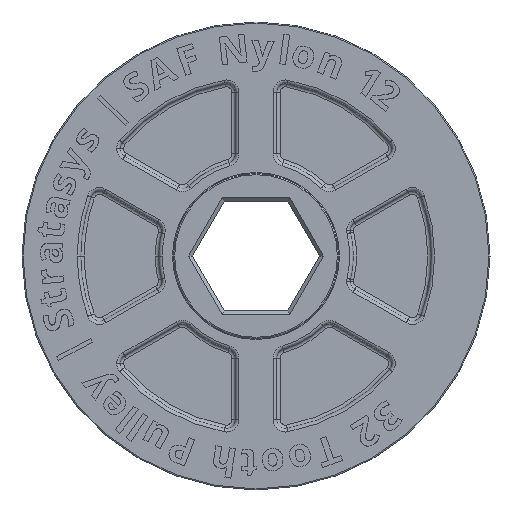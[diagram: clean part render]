
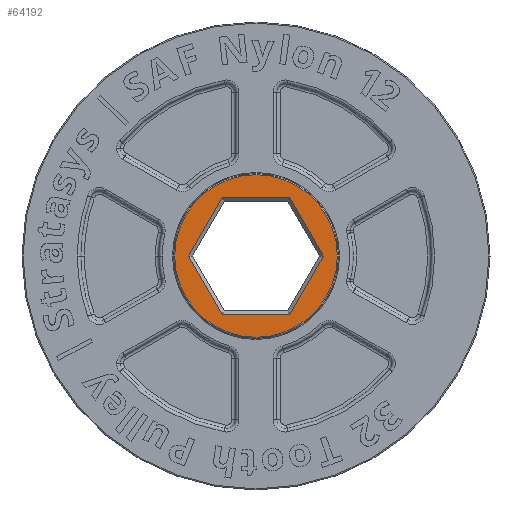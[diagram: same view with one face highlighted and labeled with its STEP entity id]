
A CAD part, left-side view. The second image highlights one B-rep face of the part: STEP entity #64192.
In plain terms, the highlighted planar face has unit normal (-1, 0, 0).
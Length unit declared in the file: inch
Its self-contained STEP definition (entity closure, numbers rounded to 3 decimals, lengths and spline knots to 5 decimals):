
#1128 = LINE ( 'NONE', #31278, #35189 ) ;
#2047 = DIRECTION ( 'NONE',  ( -1., 0., 0. ) ) ;
#2355 = CARTESIAN_POINT ( 'NONE',  ( 9.23125, -9.70155, 8.71178 ) ) ;
#3449 = ORIENTED_EDGE ( 'NONE', *, *, #56133, .T. ) ;
#4881 = CARTESIAN_POINT ( 'NONE',  ( 9.23125, -9.69253, 8.71178 ) ) ;
#7275 = LINE ( 'NONE', #21732, #40088 ) ;
#9693 = EDGE_CURVE ( 'NONE', #32974, #12632, #48291, .T. ) ;
#10421 = CARTESIAN_POINT ( 'NONE',  ( 9.23125, -9.84589, 8.97741 ) ) ;
#12092 = FACE_BOUND ( 'NONE', #65592, .T. ) ;
#12632 = VERTEX_POINT ( 'NONE', #4881 ) ;
#13239 = AXIS2_PLACEMENT_3D ( 'NONE', #10421, #19846, #15472 ) ;
#15472 = DIRECTION ( 'NONE',  ( 0., -1., 0. ) ) ;
#17070 = VERTEX_POINT ( 'NONE', #32171 ) ;
#19699 = VERTEX_POINT ( 'NONE', #39968 ) ;
#19710 = CIRCLE ( 'NONE', #63714, 0.37 ) ;
#19846 = DIRECTION ( 'NONE',  ( -1., 0., 0. ) ) ;
#20455 = CARTESIAN_POINT ( 'NONE',  ( 9.23125, -10.1526, 8.97741 ) ) ;
#20605 = EDGE_CURVE ( 'NONE', #12632, #19699, #1128, .T. ) ;
#21732 = CARTESIAN_POINT ( 'NONE',  ( 9.23125, -10.14809, 8.98522 ) ) ;
#22756 = CARTESIAN_POINT ( 'NONE',  ( 9.23125, -9.68802, 9.23522 ) ) ;
#27524 = PLANE ( 'NONE',  #32158 ) ;
#27784 = LINE ( 'NONE', #22756, #58210 ) ;
#28663 = EDGE_CURVE ( 'NONE', #17070, #53667, #7275, .T. ) ;
#30037 = ORIENTED_EDGE ( 'NONE', *, *, #58082, .T. ) ;
#30151 = ORIENTED_EDGE ( 'NONE', *, *, #9693, .T. ) ;
#31278 = CARTESIAN_POINT ( 'NONE',  ( 9.23125, -9.54368, 8.96959 ) ) ;
#32158 = AXIS2_PLACEMENT_3D ( 'NONE', #47987, #2047, #44924 ) ;
#32171 = CARTESIAN_POINT ( 'NONE',  ( 9.23125, -9.99925, 9.24303 ) ) ;
#32350 = CIRCLE ( 'NONE', #13239, 0.37 ) ;
#32490 = CARTESIAN_POINT ( 'NONE',  ( 9.23125, -9.84589, 8.97741 ) ) ;
#32524 = FACE_OUTER_BOUND ( 'NONE', #55411, .T. ) ;
#32974 = VERTEX_POINT ( 'NONE', #48041 ) ;
#34432 = VERTEX_POINT ( 'NONE', #41934 ) ;
#35189 = VECTOR ( 'NONE', #41705, 39.37008 ) ;
#39216 = VERTEX_POINT ( 'NONE', #41580 ) ;
#39344 = EDGE_CURVE ( 'NONE', #46072, #39216, #19710, .T. ) ;
#39519 = ORIENTED_EDGE ( 'NONE', *, *, #20605, .T. ) ;
#39968 = CARTESIAN_POINT ( 'NONE',  ( 9.23125, -9.53917, 8.97741 ) ) ;
#40088 = VECTOR ( 'NONE', #57306, 39.37008 ) ;
#41580 = CARTESIAN_POINT ( 'NONE',  ( 9.23125, -9.47589, 8.97741 ) ) ;
#41705 = DIRECTION ( 'NONE',  ( 0., 0.5, 0.866 ) ) ;
#41934 = CARTESIAN_POINT ( 'NONE',  ( 9.23125, -9.69253, 9.24303 ) ) ;
#42124 = CARTESIAN_POINT ( 'NONE',  ( 9.23125, -9.99022, 9.24303 ) ) ;
#42249 = DIRECTION ( 'NONE',  ( 0., 1., 0. ) ) ;
#42913 = DIRECTION ( 'NONE',  ( 0., -1., 0. ) ) ;
#43126 = DIRECTION ( 'NONE',  ( 0., -1., 0. ) ) ;
#44078 = VECTOR ( 'NONE', #49399, 39.37008 ) ;
#44506 = ORIENTED_EDGE ( 'NONE', *, *, #28663, .T. ) ;
#44924 = DIRECTION ( 'NONE',  ( 0., 1., 0. ) ) ;
#46072 = VERTEX_POINT ( 'NONE', #63458 ) ;
#47496 = LINE ( 'NONE', #42124, #55927 ) ;
#47987 = CARTESIAN_POINT ( 'NONE',  ( 9.23125, -9.84589, 8.97741 ) ) ;
#48041 = CARTESIAN_POINT ( 'NONE',  ( 9.23125, -9.99925, 8.71178 ) ) ;
#48291 = LINE ( 'NONE', #2355, #51091 ) ;
#48294 = ORIENTED_EDGE ( 'NONE', *, *, #58546, .T. ) ;
#48586 = DIRECTION ( 'NONE',  ( 0., -0.5, 0.866 ) ) ;
#49399 = DIRECTION ( 'NONE',  ( 0., 0.5, -0.866 ) ) ;
#49687 = ORIENTED_EDGE ( 'NONE', *, *, #66174, .T. ) ;
#51091 = VECTOR ( 'NONE', #42249, 39.37008 ) ;
#53090 = LINE ( 'NONE', #59476, #44078 ) ;
#53667 = VERTEX_POINT ( 'NONE', #20455 ) ;
#55411 = EDGE_LOOP ( 'NONE', ( #57940, #48294 ) ) ;
#55927 = VECTOR ( 'NONE', #43126, 39.37008 ) ;
#56133 = EDGE_CURVE ( 'NONE', #53667, #32974, #53090, .T. ) ;
#57306 = DIRECTION ( 'NONE',  ( 0., -0.5, -0.866 ) ) ;
#57940 = ORIENTED_EDGE ( 'NONE', *, *, #39344, .T. ) ;
#58082 = EDGE_CURVE ( 'NONE', #19699, #34432, #27784, .T. ) ;
#58210 = VECTOR ( 'NONE', #48586, 39.37008 ) ;
#58546 = EDGE_CURVE ( 'NONE', #39216, #46072, #32350, .T. ) ;
#59476 = CARTESIAN_POINT ( 'NONE',  ( 9.23125, -10.00376, 8.71959 ) ) ;
#63414 = DIRECTION ( 'NONE',  ( -1., 0., 0. ) ) ;
#63458 = CARTESIAN_POINT ( 'NONE',  ( 9.23125, -10.21589, 8.97741 ) ) ;
#63714 = AXIS2_PLACEMENT_3D ( 'NONE', #32490, #63414, #42913 ) ;
#64192 = ADVANCED_FACE ( 'NONE', ( #12092, #32524 ), #27524, .T. ) ;
#65592 = EDGE_LOOP ( 'NONE', ( #49687, #44506, #3449, #30151, #39519, #30037 ) ) ;
#66174 = EDGE_CURVE ( 'NONE', #34432, #17070, #47496, .T. ) ;
